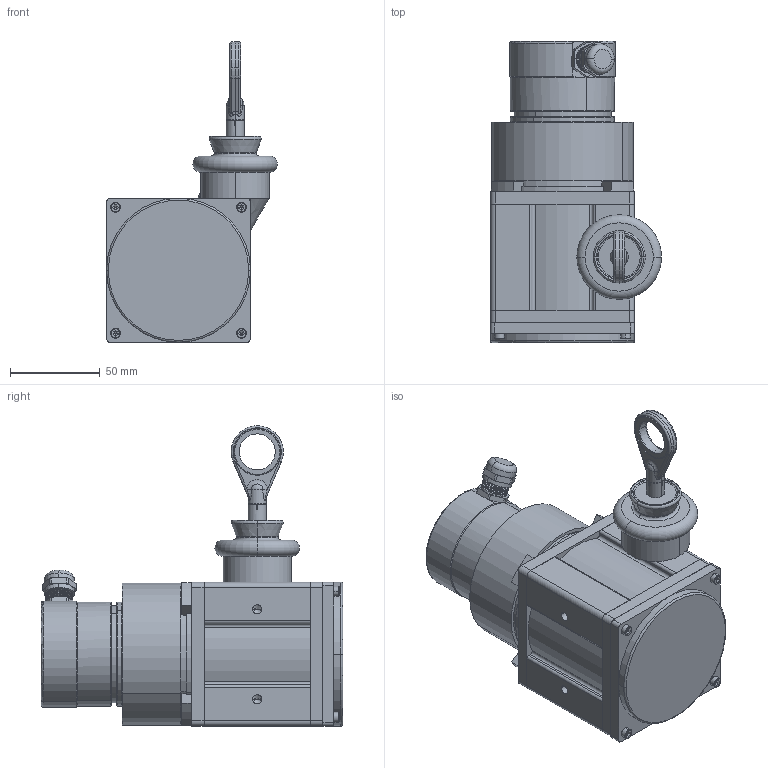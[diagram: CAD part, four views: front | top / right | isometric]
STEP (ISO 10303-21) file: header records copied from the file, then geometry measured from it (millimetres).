
FILE_DESCRIPTION (( 'STEP AP214' ), '1' );
FILE_NAME ('3米-装配夹紧发兰5810编码器.step', '2025-04-20T14:44:17', ( '' ), ( '' ), 'SwSTEP 2.0', 'SolidWorks 2024', '' );
FILE_SCHEMA (( 'AUTOMOTIVE_DESIGN' ));
Length unit declared in the file: millimetre
Products named in the file (1): 3米-装配夹紧发兰5810编码器
Bounding box: 95 x 167.5 x 167 mm (x, y, z)
Surface area: 152956.2 mm2 (no closed solid volume)
Topology: 0 solids, 188 shells, 1049 faces, 3618 edges, 2744 vertices
Faces by surface type: plane 460, cylinder 390, cone 86, bspline 70, torus 32, sphere 11
Entity records: 52654 total; most frequent: CARTESIAN_POINT 22470, DIRECTION 5899, ORIENTED_EDGE 5717, EDGE_CURVE 3595, VERTEX_POINT 2739, AXIS2_PLACEMENT_3D 2060, VECTOR 1779, LINE 1779
